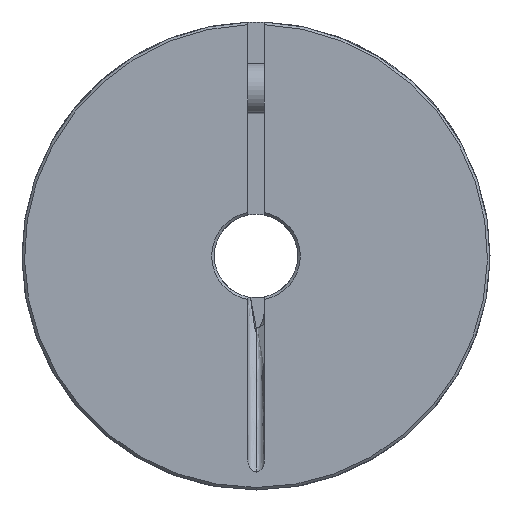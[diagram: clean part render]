
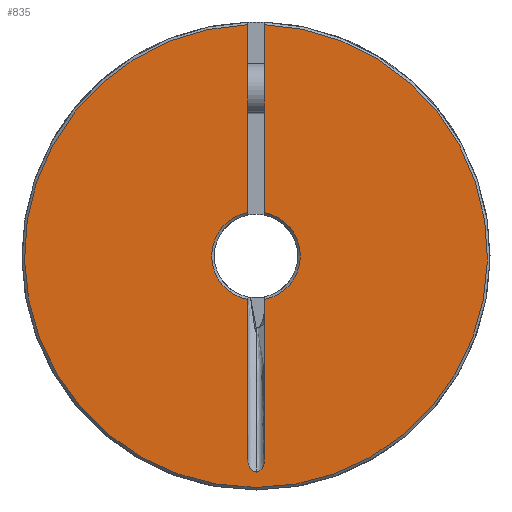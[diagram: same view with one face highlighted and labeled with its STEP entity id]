
A CAD part, left-side view. The second image highlights one B-rep face of the part: STEP entity #835.
In plain terms, the highlighted planar face has unit normal (-1, 0, 0) as drawn and (0, 0, 1) by its records, which use the part's own axes.
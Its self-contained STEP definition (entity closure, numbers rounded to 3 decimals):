
#1 = DIRECTION ( 'NONE',  ( -1., 0., 0. ) ) ;
#111 = LINE ( 'NONE', #112, #113 ) ;
#112 = CARTESIAN_POINT ( 'NONE',  ( 0., 1., 21. ) ) ;
#113 = VECTOR ( 'NONE', #114, 1000. ) ;
#114 = DIRECTION ( 'NONE',  ( -1., 0., 0. ) ) ;
#136 = CIRCLE ( 'NONE', #137, 5.3 ) ;
#137 = AXIS2_PLACEMENT_3D ( 'NONE', #139, #140, #141 ) ;
#139 = CARTESIAN_POINT ( 'NONE',  ( 0., 0., 21. ) ) ;
#140 = DIRECTION ( 'NONE',  ( 0., 0., -1. ) ) ;
#141 = DIRECTION ( 'NONE',  ( 1., 0., 0. ) ) ;
#370 = FACE_OUTER_BOUND ( 'NONE', #818, .T. ) ;
#371 = PLANE ( 'NONE',  #372 ) ;
#372 = AXIS2_PLACEMENT_3D ( 'NONE', #373, #374, #375 ) ;
#373 = CARTESIAN_POINT ( 'NONE',  ( 0., 0., 21. ) ) ;
#374 = DIRECTION ( 'NONE',  ( 0., 0., 1. ) ) ;
#375 = DIRECTION ( 'NONE',  ( 1., 0., 0. ) ) ;
#580 = VERTEX_POINT ( 'NONE', #1651 ) ;
#596 = VERTEX_POINT ( 'NONE', #1735 ) ;
#610 = EDGE_CURVE ( 'NONE', #596, #580, #1844, .T. ) ;
#689 = ORIENTED_EDGE ( 'NONE', *, *, #610, .T. ) ;
#725 = EDGE_CURVE ( 'NONE', #861, #596, #2968, .T. ) ;
#750 = ORIENTED_EDGE ( 'NONE', *, *, #725, .T. ) ;
#789 = VERTEX_POINT ( 'NONE', #3529 ) ;
#790 = ORIENTED_EDGE ( 'NONE', *, *, #798, .F. ) ;
#798 = EDGE_CURVE ( 'NONE', #861, #789, #111, .T. ) ;
#818 = EDGE_LOOP ( 'NONE', ( #790, #750, #689, #3668, #3585, #3114, #1952, #1101, #950, #3852 ) ) ;
#835 = ADVANCED_FACE ( 'NONE', ( #370 ), #371, .T. ) ;
#861 = VERTEX_POINT ( 'NONE', #1279 ) ;
#872 = VERTEX_POINT ( 'NONE', #1321 ) ;
#899 = EDGE_CURVE ( 'NONE', #872, #1017, #1444, .T. ) ;
#950 = ORIENTED_EDGE ( 'NONE', *, *, #899, .F. ) ;
#1017 = VERTEX_POINT ( 'NONE', #1926 ) ;
#1052 = EDGE_CURVE ( 'NONE', #1367, #1017, #2080, .T. ) ;
#1101 = ORIENTED_EDGE ( 'NONE', *, *, #1052, .T. ) ;
#1174 = CARTESIAN_POINT ( 'NONE',  ( -5.205, -1., 21. ) ) ;
#1279 = CARTESIAN_POINT ( 'NONE',  ( 27.682, 1., 21. ) ) ;
#1316 = CIRCLE ( 'NONE', #1317, 5.3 ) ;
#1317 = AXIS2_PLACEMENT_3D ( 'NONE', #1318, #1319, #1320 ) ;
#1318 = CARTESIAN_POINT ( 'NONE',  ( 0., 0., 21. ) ) ;
#1319 = DIRECTION ( 'NONE',  ( 0., 0., -1. ) ) ;
#1320 = DIRECTION ( 'NONE',  ( 1., 0., 0. ) ) ;
#1321 = CARTESIAN_POINT ( 'NONE',  ( -5.205, 1., 21. ) ) ;
#1367 = VERTEX_POINT ( 'NONE', #2724 ) ;
#1444 = LINE ( 'NONE', #1445, #1446 ) ;
#1445 = CARTESIAN_POINT ( 'NONE',  ( 0., 1., 21. ) ) ;
#1446 = VECTOR ( 'NONE', #1447, 1000. ) ;
#1447 = DIRECTION ( 'NONE',  ( -1., 0., 0. ) ) ;
#1588 = EDGE_CURVE ( 'NONE', #2474, #1367, #2841, .T. ) ;
#1651 = CARTESIAN_POINT ( 'NONE',  ( 27.682, -1., 21. ) ) ;
#1735 = CARTESIAN_POINT ( 'NONE',  ( -27.7, 0., 21. ) ) ;
#1844 = CIRCLE ( 'NONE', #1845, 27.7 ) ;
#1845 = AXIS2_PLACEMENT_3D ( 'NONE', #1846, #1847, #1848 ) ;
#1846 = CARTESIAN_POINT ( 'NONE',  ( 0., 0., 21. ) ) ;
#1847 = DIRECTION ( 'NONE',  ( 0., 0., 1. ) ) ;
#1848 = DIRECTION ( 'NONE',  ( 1., 0., 0. ) ) ;
#1875 = CARTESIAN_POINT ( 'NONE',  ( 5.205, -1., 21. ) ) ;
#1926 = CARTESIAN_POINT ( 'NONE',  ( -24.376, 1., 21. ) ) ;
#1952 = ORIENTED_EDGE ( 'NONE', *, *, #1588, .T. ) ;
#2020 = LINE ( 'NONE', #2021, #2022 ) ;
#2021 = CARTESIAN_POINT ( 'NONE',  ( 0., -1., 21. ) ) ;
#2022 = VECTOR ( 'NONE', #2023, 1000. ) ;
#2023 = DIRECTION ( 'NONE',  ( -1., 0., 0. ) ) ;
#2080 = B_SPLINE_CURVE_WITH_KNOTS ( 'NONE', 3,
 ( #2083, #2084, #2085, #2086, #2087, #2088, #2089, #2090, #2091, #2092 ),
 .UNSPECIFIED., .F., .F.,
 ( 4, 2, 2, 2, 4 ),
 ( 0., 0., 0.001, 0.001, 0.002 ),
 .UNSPECIFIED. ) ;
#2083 = CARTESIAN_POINT ( 'NONE',  ( -25.849, 0., 21. ) ) ;
#2084 = CARTESIAN_POINT ( 'NONE',  ( -25.849, 0.166, 21. ) ) ;
#2085 = CARTESIAN_POINT ( 'NONE',  ( -25.787, 0.324, 21. ) ) ;
#2086 = CARTESIAN_POINT ( 'NONE',  ( -25.59, 0.587, 21. ) ) ;
#2087 = CARTESIAN_POINT ( 'NONE',  ( -25.459, 0.691, 21. ) ) ;
#2088 = CARTESIAN_POINT ( 'NONE',  ( -25.174, 0.851, 21. ) ) ;
#2089 = CARTESIAN_POINT ( 'NONE',  ( -25.021, 0.907, 21. ) ) ;
#2090 = CARTESIAN_POINT ( 'NONE',  ( -24.702, 0.982, 21. ) ) ;
#2091 = CARTESIAN_POINT ( 'NONE',  ( -24.54, 1., 21. ) ) ;
#2092 = CARTESIAN_POINT ( 'NONE',  ( -24.376, 1., 21. ) ) ;
#2474 = VERTEX_POINT ( 'NONE', #3384 ) ;
#2702 = EDGE_CURVE ( 'NONE', #3541, #2474, #3530, .T. ) ;
#2724 = CARTESIAN_POINT ( 'NONE',  ( -25.849, 0., 21. ) ) ;
#2841 = B_SPLINE_CURVE_WITH_KNOTS ( 'NONE', 3,
 ( #2842, #2843, #2844, #2845, #2846, #2847, #2850, #2851, #2852, #2853 ),
 .UNSPECIFIED., .F., .F.,
 ( 4, 2, 2, 2, 4 ),
 ( 0., 0., 0.001, 0.001, 0.002 ),
 .UNSPECIFIED. ) ;
#2842 = CARTESIAN_POINT ( 'NONE',  ( -24.376, -1., 21. ) ) ;
#2843 = CARTESIAN_POINT ( 'NONE',  ( -24.54, -1., 21. ) ) ;
#2844 = CARTESIAN_POINT ( 'NONE',  ( -24.702, -0.982, 21. ) ) ;
#2845 = CARTESIAN_POINT ( 'NONE',  ( -25.017, -0.909, 21. ) ) ;
#2846 = CARTESIAN_POINT ( 'NONE',  ( -25.173, -0.852, 21. ) ) ;
#2847 = CARTESIAN_POINT ( 'NONE',  ( -25.458, -0.692, 21. ) ) ;
#2850 = CARTESIAN_POINT ( 'NONE',  ( -25.589, -0.588, 21. ) ) ;
#2851 = CARTESIAN_POINT ( 'NONE',  ( -25.786, -0.325, 21. ) ) ;
#2852 = CARTESIAN_POINT ( 'NONE',  ( -25.849, -0.166, 21. ) ) ;
#2853 = CARTESIAN_POINT ( 'NONE',  ( -25.849, 0., 21. ) ) ;
#2968 = CIRCLE ( 'NONE', #2969, 27.7 ) ;
#2969 = AXIS2_PLACEMENT_3D ( 'NONE', #2970, #2971, #2972 ) ;
#2970 = CARTESIAN_POINT ( 'NONE',  ( 0., 0., 21. ) ) ;
#2971 = DIRECTION ( 'NONE',  ( 0., 0., 1. ) ) ;
#2972 = DIRECTION ( 'NONE',  ( 1., 0., 0. ) ) ;
#3114 = ORIENTED_EDGE ( 'NONE', *, *, #2702, .T. ) ;
#3384 = CARTESIAN_POINT ( 'NONE',  ( -24.376, -1., 21. ) ) ;
#3529 = CARTESIAN_POINT ( 'NONE',  ( 5.205, 1., 21. ) ) ;
#3530 = LINE ( 'NONE', #3531, #3532 ) ;
#3531 = CARTESIAN_POINT ( 'NONE',  ( 0., -1., 21. ) ) ;
#3532 = VECTOR ( 'NONE', #1, 1000. ) ;
#3541 = VERTEX_POINT ( 'NONE', #1174 ) ;
#3557 = EDGE_CURVE ( 'NONE', #3630, #3541, #1316, .T. ) ;
#3585 = ORIENTED_EDGE ( 'NONE', *, *, #3557, .T. ) ;
#3630 = VERTEX_POINT ( 'NONE', #1875 ) ;
#3642 = EDGE_CURVE ( 'NONE', #580, #3630, #2020, .T. ) ;
#3668 = ORIENTED_EDGE ( 'NONE', *, *, #3642, .T. ) ;
#3825 = EDGE_CURVE ( 'NONE', #872, #789, #136, .T. ) ;
#3852 = ORIENTED_EDGE ( 'NONE', *, *, #3825, .T. ) ;
